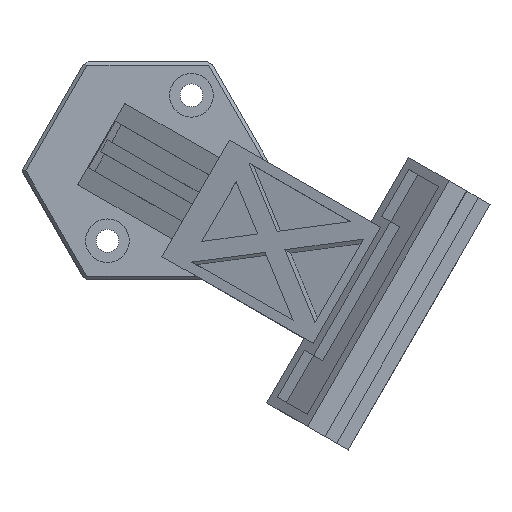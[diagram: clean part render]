
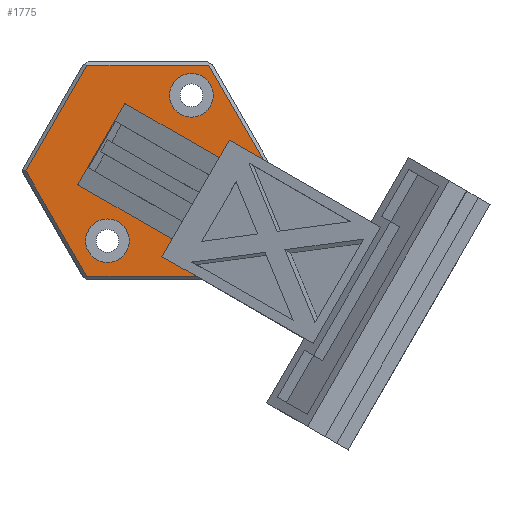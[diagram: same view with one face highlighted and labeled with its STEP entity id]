
A CAD part, top view. The second image highlights one B-rep face of the part: STEP entity #1775.
In plain terms, the highlighted planar face has unit normal (0, 0, 1).
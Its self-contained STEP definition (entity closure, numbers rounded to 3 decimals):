
#21=FACE_BOUND('',#162,.T.);
#22=FACE_BOUND('',#163,.T.);
#23=FACE_BOUND('',#164,.T.);
#37=CIRCLE('',#1880,3.25);
#38=CIRCLE('',#1881,3.25);
#59=FACE_OUTER_BOUND('',#161,.T.);
#161=EDGE_LOOP('',(#1249,#1250,#1251,#1252,#1253,#1254));
#162=EDGE_LOOP('',(#1255,#1256,#1257,#1258,#1259,#1260,#1261,#1262));
#163=EDGE_LOOP('',(#1263));
#164=EDGE_LOOP('',(#1264));
#267=LINE('',#2450,#510);
#285=LINE('',#2489,#528);
#292=LINE('',#2503,#535);
#300=LINE('',#2519,#543);
#303=LINE('',#2525,#546);
#307=LINE('',#2531,#550);
#309=LINE('',#2537,#552);
#310=LINE('',#2539,#553);
#311=LINE('',#2541,#554);
#312=LINE('',#2543,#555);
#313=LINE('',#2545,#556);
#314=LINE('',#2547,#557);
#315=LINE('',#2549,#558);
#316=LINE('',#2550,#559);
#510=VECTOR('',#1983,10.);
#528=VECTOR('',#2013,10.);
#535=VECTOR('',#2026,10.);
#543=VECTOR('',#2040,10.);
#546=VECTOR('',#2047,10.);
#550=VECTOR('',#2053,10.);
#552=VECTOR('',#2059,10.);
#553=VECTOR('',#2060,10.);
#554=VECTOR('',#2061,10.);
#555=VECTOR('',#2062,10.);
#556=VECTOR('',#2063,10.);
#557=VECTOR('',#2064,10.);
#558=VECTOR('',#2065,10.);
#559=VECTOR('',#2066,10.);
#752=VERTEX_POINT('',#2447);
#753=VERTEX_POINT('',#2449);
#768=VERTEX_POINT('',#2487);
#772=VERTEX_POINT('',#2501);
#777=VERTEX_POINT('',#2517);
#778=VERTEX_POINT('',#2524);
#780=VERTEX_POINT('',#2535);
#781=VERTEX_POINT('',#2536);
#782=VERTEX_POINT('',#2538);
#783=VERTEX_POINT('',#2540);
#784=VERTEX_POINT('',#2542);
#785=VERTEX_POINT('',#2544);
#786=VERTEX_POINT('',#2546);
#787=VERTEX_POINT('',#2548);
#788=VERTEX_POINT('',#2551);
#789=VERTEX_POINT('',#2553);
#918=EDGE_CURVE('',#752,#753,#267,.T.);
#938=EDGE_CURVE('',#768,#752,#285,.T.);
#945=EDGE_CURVE('',#772,#768,#292,.T.);
#953=EDGE_CURVE('',#777,#772,#300,.T.);
#956=EDGE_CURVE('',#753,#778,#303,.T.);
#960=EDGE_CURVE('',#778,#777,#307,.T.);
#962=EDGE_CURVE('',#780,#781,#309,.T.);
#963=EDGE_CURVE('',#781,#782,#310,.T.);
#964=EDGE_CURVE('',#782,#783,#311,.T.);
#965=EDGE_CURVE('',#784,#783,#312,.T.);
#966=EDGE_CURVE('',#785,#784,#313,.T.);
#967=EDGE_CURVE('',#786,#785,#314,.T.);
#968=EDGE_CURVE('',#786,#787,#315,.T.);
#969=EDGE_CURVE('',#787,#780,#316,.T.);
#970=EDGE_CURVE('',#788,#788,#37,.T.);
#971=EDGE_CURVE('',#789,#789,#38,.T.);
#1249=ORIENTED_EDGE('',*,*,#956,.F.);
#1250=ORIENTED_EDGE('',*,*,#918,.F.);
#1251=ORIENTED_EDGE('',*,*,#938,.F.);
#1252=ORIENTED_EDGE('',*,*,#945,.F.);
#1253=ORIENTED_EDGE('',*,*,#953,.F.);
#1254=ORIENTED_EDGE('',*,*,#960,.F.);
#1255=ORIENTED_EDGE('',*,*,#962,.T.);
#1256=ORIENTED_EDGE('',*,*,#963,.T.);
#1257=ORIENTED_EDGE('',*,*,#964,.T.);
#1258=ORIENTED_EDGE('',*,*,#965,.F.);
#1259=ORIENTED_EDGE('',*,*,#966,.F.);
#1260=ORIENTED_EDGE('',*,*,#967,.F.);
#1261=ORIENTED_EDGE('',*,*,#968,.T.);
#1262=ORIENTED_EDGE('',*,*,#969,.T.);
#1263=ORIENTED_EDGE('',*,*,#970,.T.);
#1264=ORIENTED_EDGE('',*,*,#971,.T.);
#1679=PLANE('',#1879);
#1775=ADVANCED_FACE('',(#59,#21,#22,#23),#1679,.F.);
#1879=AXIS2_PLACEMENT_3D('',#2534,#2057,#2058);
#1880=AXIS2_PLACEMENT_3D('',#2552,#2067,#2068);
#1881=AXIS2_PLACEMENT_3D('',#2554,#2069,#2070);
#1983=DIRECTION('',(-1.,0.,0.));
#2013=DIRECTION('',(-0.5,-0.866,0.));
#2026=DIRECTION('',(0.5,-0.866,0.));
#2040=DIRECTION('',(1.,0.,0.));
#2047=DIRECTION('',(-0.5,0.866,0.));
#2053=DIRECTION('',(0.5,0.866,0.));
#2057=DIRECTION('center_axis',(0.,0.,-1.));
#2058=DIRECTION('ref_axis',(0.,1.,0.));
#2059=DIRECTION('',(0.5,0.866,0.));
#2060=DIRECTION('',(0.551,-0.835,0.));
#2061=DIRECTION('',(-0.5,-0.866,0.));
#2062=DIRECTION('',(-0.866,0.5,0.));
#2063=DIRECTION('',(0.5,0.866,0.));
#2064=DIRECTION('',(0.866,-0.5,0.));
#2065=DIRECTION('',(-0.5,-0.866,0.));
#2066=DIRECTION('',(-0.998,0.06,0.));
#2067=DIRECTION('center_axis',(0.,0.,-1.));
#2068=DIRECTION('ref_axis',(-1.,0.,0.));
#2069=DIRECTION('center_axis',(0.,0.,-1.));
#2070=DIRECTION('ref_axis',(-1.,0.,0.));
#2447=CARTESIAN_POINT('',(-59.745,42.04,6.73));
#2449=CARTESIAN_POINT('',(-77.889,42.04,6.73));
#2450=CARTESIAN_POINT('',(-68.384,42.04,6.73));
#2487=CARTESIAN_POINT('',(-50.673,57.754,6.73));
#2489=CARTESIAN_POINT('',(-55.209,49.897,6.73));
#2501=CARTESIAN_POINT('',(-59.745,73.467,6.73));
#2503=CARTESIAN_POINT('',(-54.992,65.235,6.73));
#2517=CARTESIAN_POINT('',(-77.889,73.467,6.73));
#2519=CARTESIAN_POINT('',(-68.384,73.467,6.73));
#2524=CARTESIAN_POINT('',(-86.961,57.754,6.73));
#2525=CARTESIAN_POINT('',(-82.208,49.522,6.73));
#2531=CARTESIAN_POINT('',(-82.425,65.61,6.73));
#2534=CARTESIAN_POINT('Origin',(-67.951,57.254,6.73));
#2535=CARTESIAN_POINT('',(-79.245,55.691,6.73));
#2536=CARTESIAN_POINT('',(-72.245,67.816,6.73));
#2537=CARTESIAN_POINT('',(-75.745,61.754,6.73));
#2538=CARTESIAN_POINT('',(-66.085,58.486,6.73));
#2539=CARTESIAN_POINT('',(-65.566,57.7,6.73));
#2540=CARTESIAN_POINT('',(-66.585,57.62,6.73));
#2541=CARTESIAN_POINT('',(-67.085,56.754,6.73));
#2542=CARTESIAN_POINT('',(-58.791,53.12,6.73));
#2543=CARTESIAN_POINT('',(-65.069,56.745,6.73));
#2544=CARTESIAN_POINT('',(-59.791,51.388,6.73));
#2545=CARTESIAN_POINT('',(-59.291,52.254,6.73));
#2546=CARTESIAN_POINT('',(-67.585,55.888,6.73));
#2547=CARTESIAN_POINT('',(-66.069,55.013,6.73));
#2548=CARTESIAN_POINT('',(-68.085,55.022,6.73));
#2549=CARTESIAN_POINT('',(-67.085,56.754,6.73));
#2550=CARTESIAN_POINT('',(-67.145,54.965,6.73));
#2551=CARTESIAN_POINT('',(-71.567,47.361,6.73));
#2552=CARTESIAN_POINT('Origin',(-74.817,47.361,6.73));
#2553=CARTESIAN_POINT('',(-59.067,69.012,6.73));
#2554=CARTESIAN_POINT('Origin',(-62.317,69.012,6.73));
